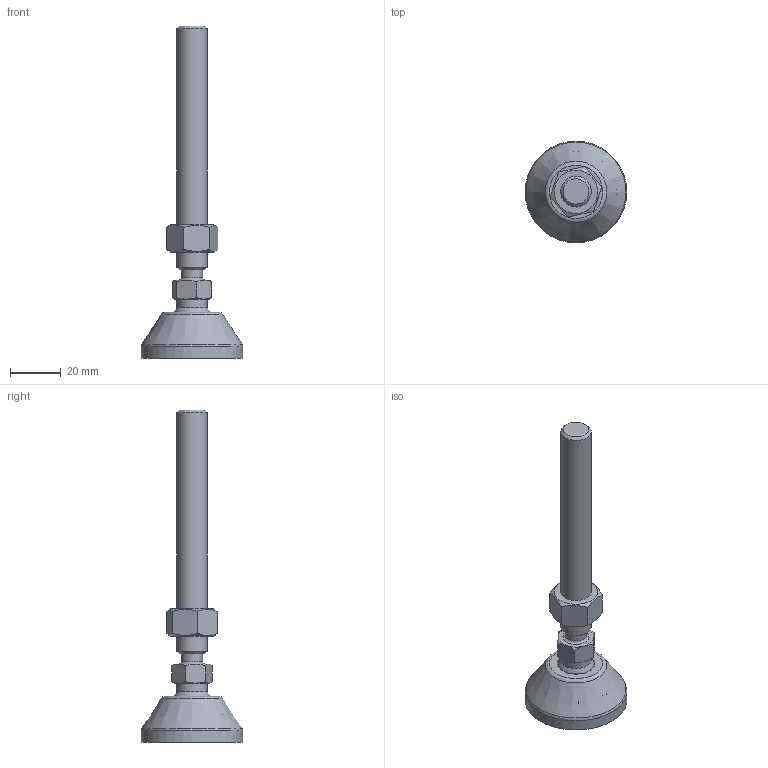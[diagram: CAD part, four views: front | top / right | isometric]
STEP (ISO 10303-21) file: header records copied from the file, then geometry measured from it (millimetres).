
FILE_DESCRIPTION(('STEP AP203'), '1');
FILE_NAME('栖闉罻', '', ('UNSPECIFIED'), ('UNSPECIFIED'), 'C3D Converter', 'C3D Toolkit', '');
FILE_SCHEMA(('CONFIG_CONTROL_DESIGN'));
Length unit declared in the file: millimetre
Products named in the file (4): A00015.1040; A00020.112100
Assembly tree (3 placements, depth 3):
  (unnamed)
    A00015.1040
    A00020.112100
      (unnamed)
Bounding box: 40 x 40 x 130.7 mm (x, y, z)
Volume: 25973.7 mm3; surface area: 12528.9 mm2
Topology: 3 solids, 3 shells, 149 faces, 405 edges, 267 vertices
Faces by surface type: plane 79, cylinder 26, cone 21, torus 21, sphere 2
Full cylindrical faces by diameter (mm): 8.3 x1, 10.647 x1, 12 x2, 14.3 x1, 15 x2, 15.5 x1, 32 x1, 40 x1
Entity records: 8517 total; most frequent: CARTESIAN_POINT 3489, ORIENTED_EDGE 756, DIRECTION 750, EDGE_CURVE 378, AXIS2_PLACEMENT_3D 305, VERTEX_POINT 266, EDGE_LOOP 182, FACE_BOUND 159
